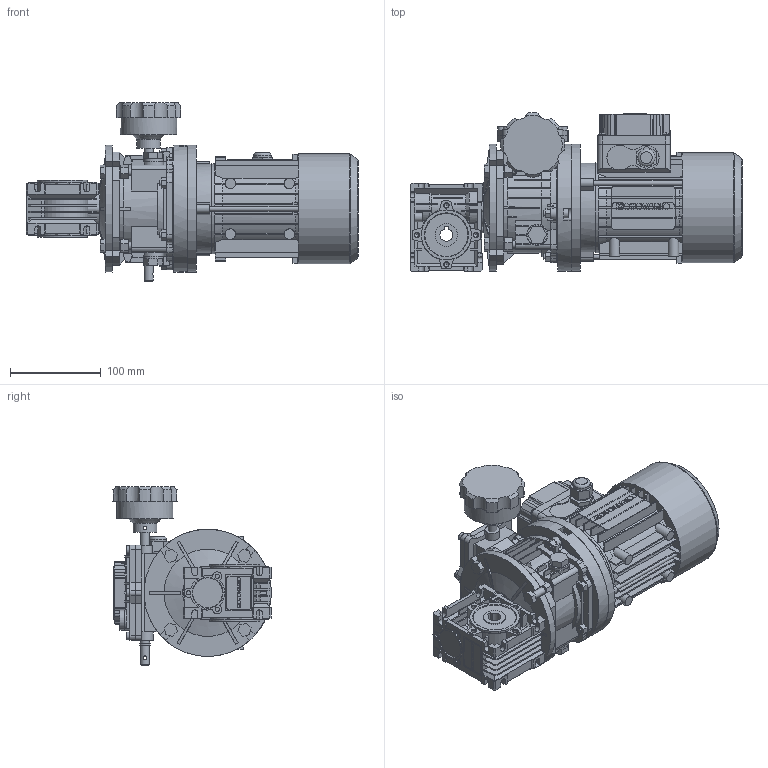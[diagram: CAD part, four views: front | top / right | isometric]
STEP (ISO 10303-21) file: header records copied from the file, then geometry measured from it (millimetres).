
FILE_DESCRIPTION(/* description */ ('STEP AP203'),/* implementation_level */ '2;1');
FILE_NAME(/* name */ 'TXF_NMRV_002_030_140x11_140x11_14_BS_B3_CM_1_AD_T_063_IC411_B5_A002_STD_1',/* time_stamp */ '2026-07-07T08:12:38+02:00',/* author */ ('License CC BY-ND 4.0'),/* organization */ ('CADENAS'),/* preprocessor_version */ 'ST-DEVELOPER v20',/* originating_system */ 'PARTsolutions',/* authorisation */ ' ');
FILE_SCHEMA (('CONFIG_CONTROL_DESIGN'));
Length unit declared in the file: millimetre
Products named in the file (19): TXF/NMRV 002/030 140x11 140x11 14 BS/B3 CM 1 AD T 063 IC411 B5 A002 S
TD 1; Gear unit 30; 030-14 (63)alc-n; VB 030-11 (11); 30-63 B5; TXF002140x1114011x23CMAD1-T063-IC411B5--A002STD1-d; Body-600201-TXF; 600206; 600203140(140x11); 600217; FLANGIA_T063B5-; CARCASSA_T-063IC411B511X23NONO--; COPRIMORSETTIERA_T063A002; PRESSACAVO_1; COPRIVENTOLA_T_063_IC411_NO_-_-_-_-_STD; ALBERO_T06311X23NO; 600227111(11x23); 600233(002); 60029942(002)
Assembly tree (18 placements, depth 2):
  TXF/NMRV 002/030 140x11 140x11 14 BS/B3 CM 1 AD T 063 IC411 B5 A002 S
TD 1
    Gear unit 30
    030-14 (63)alc-n
    VB 030-11 (11)
    30-63 B5
    TXF002140x1114011x23CMAD1-T063-IC411B5--A002STD1-d
    Body-600201-TXF
    600206
    600203140(140x11)
    600217
    FLANGIA_T063B5-
    CARCASSA_T-063IC411B511X23NONO--
    COPRIMORSETTIERA_T063A002
    PRESSACAVO_1
    COPRIVENTOLA_T_063_IC411_NO_-_-_-_-_STD
    ALBERO_T06311X23NO
    600227111(11x23)
    600233(002)
    60029942(002)
Bounding box: 365.5 x 174.44 x 196 mm (x, y, z)
Volume: 3786931.8 mm3; surface area: 556821 mm2
Topology: 17 solids, 24 shells, 3278 faces, 8992 edges, 5943 vertices
Faces by surface type: plane 2035, cylinder 1120, cone 113, torus 6, sphere 4
Full cylindrical faces by diameter (mm): 1.8 x1, 2.02 x1, 3.242 x1, 3.545 x3, 4 x3, 4.3 x1, 4.65 x3, 4.917 x8, 5 x3, 6 x6, 6.647 x4, 8 x12, 8.5 x6, 9.5 x4, 10 x13, 11 x2, 11.5 x4, 12 x2, 13 x4, 15 x2, 16 x3, 18 x4, 19 x3, 21.9 x1, 22 x2, 23 x2, 24.8 x2, 26 x1, 30 x2, 33 x1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
Entity records: 103654 total; most frequent: CARTESIAN_POINT 18906, DIRECTION 17760, ORIENTED_EDGE 17508, EDGE_CURVE 8754, AXIS2_PLACEMENT_3D 5983, VERTEX_POINT 5901, LINE 5794, VECTOR 5794
